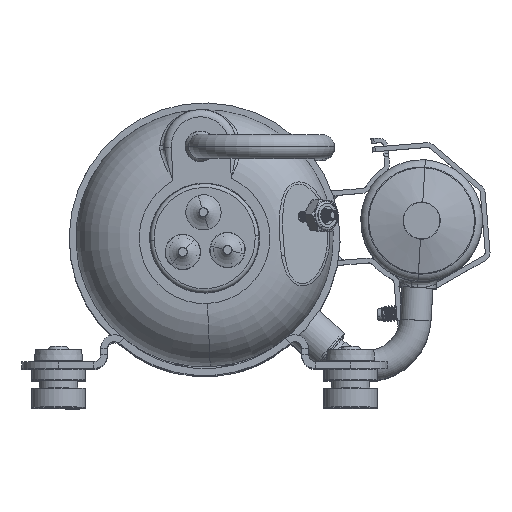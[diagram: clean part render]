
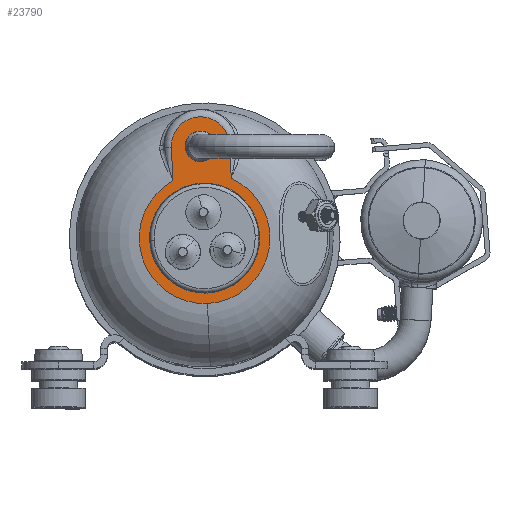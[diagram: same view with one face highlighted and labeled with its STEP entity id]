
A CAD part, top view. The second image highlights one B-rep face of the part: STEP entity #23790.
In plain terms, the highlighted planar face has unit normal (0, 0, 1).
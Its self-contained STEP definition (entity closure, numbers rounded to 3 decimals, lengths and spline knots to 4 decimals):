
#469 = AXIS2_PLACEMENT_3D ( 'NONE', #41960, #69272, #41610 ) ;
#624 = FACE_BOUND ( 'NONE', #27454, .T. ) ;
#1082 = AXIS2_PLACEMENT_3D ( 'NONE', #31494, #10577, #32182 ) ;
#1742 = ORIENTED_EDGE ( 'NONE', *, *, #66586, .T. ) ;
#1949 = CARTESIAN_POINT ( 'NONE',  ( -0.0414, 0.9456, 4.265 ) ) ;
#6477 = AXIS2_PLACEMENT_3D ( 'NONE', #65423, #48738, #60807 ) ;
#7562 = LINE ( 'NONE', #55398, #48627 ) ;
#7684 = CARTESIAN_POINT ( 'NONE',  ( -0.0413, 0.9416, 4.265 ) ) ;
#8189 = VERTEX_POINT ( 'NONE', #18246 ) ;
#8355 = EDGE_CURVE ( 'NONE', #8189, #60238, #17336, .T. ) ;
#9730 = CIRCLE ( 'NONE', #18778, 0.157 ) ;
#9870 = FACE_BOUND ( 'NONE', #30060, .T. ) ;
#10163 = CARTESIAN_POINT ( 'NONE',  ( 0.2734, 0.6133, 4.265 ) ) ;
#10429 = CARTESIAN_POINT ( 'NONE',  ( -0.3411, 0.9325, 4.265 ) ) ;
#10577 = DIRECTION ( 'NONE',  ( 0., 0., -1. ) ) ;
#12289 = ORIENTED_EDGE ( 'NONE', *, *, #36366, .T. ) ;
#12991 = DIRECTION ( 'NONE',  ( 0.044, -0.999, 0. ) ) ;
#13411 = AXIS2_PLACEMENT_3D ( 'NONE', #65550, #38607, #60223 ) ;
#14135 = ORIENTED_EDGE ( 'NONE', *, *, #26905, .T. ) ;
#14573 = VERTEX_POINT ( 'NONE', #10429 ) ;
#14599 = DIRECTION ( 'NONE',  ( -0.044, 0.999, 0. ) ) ;
#16443 = DIRECTION ( 'NONE',  ( 0.044, -0.999, 0. ) ) ;
#17336 = CIRCLE ( 'NONE', #469, 0.6715 ) ;
#17352 = ORIENTED_EDGE ( 'NONE', *, *, #54891, .F. ) ;
#18246 = CARTESIAN_POINT ( 'NONE',  ( -0.326, 0.5871, 4.265 ) ) ;
#18778 = AXIS2_PLACEMENT_3D ( 'NONE', #7684, #44517, #12991 ) ;
#19677 = CARTESIAN_POINT ( 'NONE',  ( -0.0344, 0.7847, 4.265 ) ) ;
#20187 = ORIENTED_EDGE ( 'NONE', *, *, #63636, .T. ) ;
#21003 = AXIS2_PLACEMENT_3D ( 'NONE', #47837, #53186, #14599 ) ;
#22030 = EDGE_CURVE ( 'NONE', #66711, #48530, #52992, .T. ) ;
#22457 = CARTESIAN_POINT ( 'NONE',  ( -0.3241, 0.5434, 4.265 ) ) ;
#23790 = ADVANCED_FACE ( 'NONE', ( #624, #9870, #32544 ), #59104, .F. ) ;
#24342 = AXIS2_PLACEMENT_3D ( 'NONE', #64536, #53212, #68841 ) ;
#26905 = EDGE_CURVE ( 'NONE', #14573, #8189, #60392, .T. ) ;
#27454 = EDGE_LOOP ( 'NONE', ( #44880, #1742 ) ) ;
#28098 = CARTESIAN_POINT ( 'NONE',  ( -0.0481, 1.0984, 4.265 ) ) ;
#28184 = DIRECTION ( 'NONE',  ( 0.044, -0.999, 0. ) ) ;
#28791 = DIRECTION ( 'NONE',  ( -0.044, 0.999, 0. ) ) ;
#30060 = EDGE_LOOP ( 'NONE', ( #17352, #59317 ) ) ;
#30671 = EDGE_LOOP ( 'NONE', ( #14135, #40421, #20187, #12289, #55932 ) ) ;
#31494 = CARTESIAN_POINT ( 'NONE',  ( 0., 0., 4.265 ) ) ;
#32182 = DIRECTION ( 'NONE',  ( 0.044, -0.999, 0. ) ) ;
#32544 = FACE_OUTER_BOUND ( 'NONE', #30671, .T. ) ;
#35855 = CIRCLE ( 'NONE', #6477, 0.565 ) ;
#36366 = EDGE_CURVE ( 'NONE', #69400, #40987, #7562, .T. ) ;
#38607 = DIRECTION ( 'NONE',  ( 0., 0., -1. ) ) ;
#40421 = ORIENTED_EDGE ( 'NONE', *, *, #8355, .T. ) ;
#40987 = VERTEX_POINT ( 'NONE', #60539 ) ;
#41610 = DIRECTION ( 'NONE',  ( 0.044, -0.999, 0. ) ) ;
#41960 = CARTESIAN_POINT ( 'NONE',  ( 0., 0., 4.265 ) ) ;
#42498 = CIRCLE ( 'NONE', #21003, 0.565 ) ;
#44517 = DIRECTION ( 'NONE',  ( 0., 0., -1. ) ) ;
#44880 = ORIENTED_EDGE ( 'NONE', *, *, #22030, .T. ) ;
#45753 = EDGE_CURVE ( 'NONE', #50706, #48669, #42498, .T. ) ;
#47837 = CARTESIAN_POINT ( 'NONE',  ( 0., 0., 4.265 ) ) ;
#47937 = EDGE_CURVE ( 'NONE', #40987, #14573, #67498, .T. ) ;
#48270 = CARTESIAN_POINT ( 'NONE',  ( 0.0247, -0.5645, 4.265 ) ) ;
#48530 = VERTEX_POINT ( 'NONE', #28098 ) ;
#48627 = VECTOR ( 'NONE', #28791, 39.3701 ) ;
#48669 = VERTEX_POINT ( 'NONE', #51456 ) ;
#48738 = DIRECTION ( 'NONE',  ( 0., 0., 1. ) ) ;
#49164 = CARTESIAN_POINT ( 'NONE',  ( 0.0294, -0.6709, 4.265 ) ) ;
#50497 = DIRECTION ( 'NONE',  ( 0., 0., 1. ) ) ;
#50706 = VERTEX_POINT ( 'NONE', #48270 ) ;
#51456 = CARTESIAN_POINT ( 'NONE',  ( -0.0247, 0.5645, 4.265 ) ) ;
#52992 = CIRCLE ( 'NONE', #13411, 0.157 ) ;
#53186 = DIRECTION ( 'NONE',  ( 0., 0., 1. ) ) ;
#53212 = DIRECTION ( 'NONE',  ( 0., 0., 1. ) ) ;
#54891 = EDGE_CURVE ( 'NONE', #48669, #50706, #35855, .T. ) ;
#55214 = AXIS2_PLACEMENT_3D ( 'NONE', #1949, #50497, #28184 ) ;
#55398 = CARTESIAN_POINT ( 'NONE',  ( 0.2583, 0.9587, 4.265 ) ) ;
#55932 = ORIENTED_EDGE ( 'NONE', *, *, #47937, .T. ) ;
#59104 = PLANE ( 'NONE',  #1082 ) ;
#59317 = ORIENTED_EDGE ( 'NONE', *, *, #45753, .F. ) ;
#59392 = CIRCLE ( 'NONE', #24342, 0.6715 ) ;
#60223 = DIRECTION ( 'NONE',  ( 0.044, -0.999, 0. ) ) ;
#60238 = VERTEX_POINT ( 'NONE', #49164 ) ;
#60392 = LINE ( 'NONE', #22457, #67102 ) ;
#60539 = CARTESIAN_POINT ( 'NONE',  ( 0.2583, 0.9587, 4.265 ) ) ;
#60807 = DIRECTION ( 'NONE',  ( -0.044, 0.999, 0. ) ) ;
#63636 = EDGE_CURVE ( 'NONE', #60238, #69400, #59392, .T. ) ;
#64536 = CARTESIAN_POINT ( 'NONE',  ( 0., 0., 4.265 ) ) ;
#65423 = CARTESIAN_POINT ( 'NONE',  ( 0., 0., 4.265 ) ) ;
#65550 = CARTESIAN_POINT ( 'NONE',  ( -0.0413, 0.9416, 4.265 ) ) ;
#66586 = EDGE_CURVE ( 'NONE', #48530, #66711, #9730, .T. ) ;
#66711 = VERTEX_POINT ( 'NONE', #19677 ) ;
#67102 = VECTOR ( 'NONE', #16443, 39.3701 ) ;
#67498 = CIRCLE ( 'NONE', #55214, 0.3 ) ;
#68841 = DIRECTION ( 'NONE',  ( 0.044, -0.999, 0. ) ) ;
#69272 = DIRECTION ( 'NONE',  ( 0., 0., 1. ) ) ;
#69400 = VERTEX_POINT ( 'NONE', #10163 ) ;
